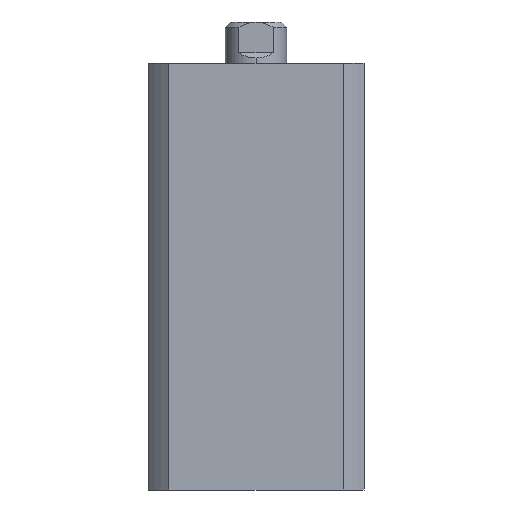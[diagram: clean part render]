
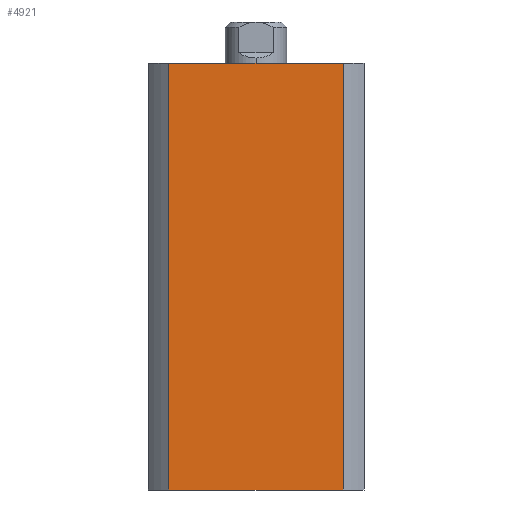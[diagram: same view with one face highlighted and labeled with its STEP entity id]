
A CAD part, left-side view. The second image highlights one B-rep face of the part: STEP entity #4921.
In plain terms, the highlighted planar face has unit normal (-1, 0, 0).
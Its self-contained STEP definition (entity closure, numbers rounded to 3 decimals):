
#213 = CARTESIAN_POINT ( 'NONE',  ( -21., 21., 0. ) ) ;
#217 = DIRECTION ( 'NONE',  ( 0., -1., 0. ) ) ;
#513 = CARTESIAN_POINT ( 'NONE',  ( -21., -16.971, 83. ) ) ;
#1062 = EDGE_LOOP ( 'NONE', ( #1922, #1938, #1933, #1947 ) ) ;
#1263 = VERTEX_POINT ( 'NONE', #3436 ) ;
#1265 = VERTEX_POINT ( 'NONE', #3434 ) ;
#1271 = VERTEX_POINT ( 'NONE', #3427 ) ;
#1319 = VERTEX_POINT ( 'NONE', #513 ) ;
#1922 = ORIENTED_EDGE ( 'NONE', *, *, #3364, .F. ) ;
#1933 = ORIENTED_EDGE ( 'NONE', *, *, #3365, .F. ) ;
#1938 = ORIENTED_EDGE ( 'NONE', *, *, #3356, .F. ) ;
#1947 = ORIENTED_EDGE ( 'NONE', *, *, #3318, .T. ) ;
#2013 = FACE_OUTER_BOUND ( 'NONE', #1062, .T. ) ;
#2092 = VECTOR ( 'NONE', #4639, 1000. ) ;
#2094 = VECTOR ( 'NONE', #4641, 1000. ) ;
#2095 = LINE ( 'NONE', #4640, #2092 ) ;
#2097 = LINE ( 'NONE', #4642, #2094 ) ;
#2108 = VECTOR ( 'NONE', #4295, 1000. ) ;
#2113 = LINE ( 'NONE', #4266, #2108 ) ;
#2151 = VECTOR ( 'NONE', #217, 1000. ) ;
#2153 = LINE ( 'NONE', #213, #2151 ) ;
#3318 = EDGE_CURVE ( 'NONE', #1263, #1271, #2153, .T. ) ;
#3356 = EDGE_CURVE ( 'NONE', #1265, #1319, #2113, .T. ) ;
#3364 = EDGE_CURVE ( 'NONE', #1319, #1271, #2097, .T. ) ;
#3365 = EDGE_CURVE ( 'NONE', #1263, #1265, #2095, .T. ) ;
#3427 = CARTESIAN_POINT ( 'NONE',  ( -21., -16.971, 0. ) ) ;
#3434 = CARTESIAN_POINT ( 'NONE',  ( -21., 16.971, 83. ) ) ;
#3436 = CARTESIAN_POINT ( 'NONE',  ( -21., 16.971, 0. ) ) ;
#3999 = AXIS2_PLACEMENT_3D ( 'NONE', #4397, #4384, #4383 ) ;
#4266 = CARTESIAN_POINT ( 'NONE',  ( -21., 21., 83. ) ) ;
#4295 = DIRECTION ( 'NONE',  ( 0., -1., 0. ) ) ;
#4383 = DIRECTION ( 'NONE',  ( 0., 1., 0. ) ) ;
#4384 = DIRECTION ( 'NONE',  ( 1., 0., 0. ) ) ;
#4387 = PLANE ( 'NONE',  #3999 ) ;
#4397 = CARTESIAN_POINT ( 'NONE',  ( -21., 21., 83. ) ) ;
#4639 = DIRECTION ( 'NONE',  ( 0., 0., 1. ) ) ;
#4640 = CARTESIAN_POINT ( 'NONE',  ( -21., 16.971, 83. ) ) ;
#4641 = DIRECTION ( 'NONE',  ( 0., 0., -1. ) ) ;
#4642 = CARTESIAN_POINT ( 'NONE',  ( -21., -16.971, 83. ) ) ;
#4921 = ADVANCED_FACE ( 'NONE', ( #2013 ), #4387, .F. ) ;
